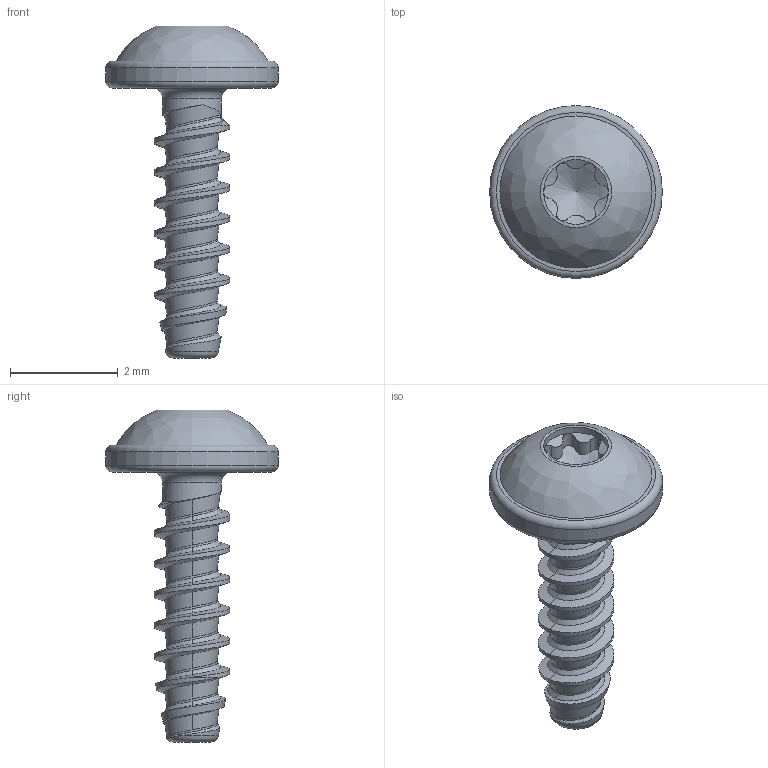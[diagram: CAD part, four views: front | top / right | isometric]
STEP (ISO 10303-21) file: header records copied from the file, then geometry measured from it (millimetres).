
FILE_DESCRIPTION(/* description */ (''),/* implementation_level */ '2;1');
FILE_NAME(/* name */ 'KN6038-STSplus-14x5-T3.step',/* time_stamp */ '2017-10-10T16:35:42+02:00',/* author */ (''),/* organization */ (''),/* preprocessor_version */ 'ST-DEVELOPER v16',/* originating_system */ 'SIEMENS PLM Software NX 10.0',/* authorisation */ '');
FILE_SCHEMA (('AUTOMOTIVE_DESIGN { 1 0 10303 214 3 1 1 1 }'));
Length unit declared in the file: millimetre
Products named in the file (1): KN6038-STSplus-14x5-T3
Bounding box: 3.2 x 3.2 x 6.15 mm (x, y, z)
Volume: 10.7 mm3; surface area: 47.4 mm2
Topology: 1 solids, 1 shells, 71 faces, 175 edges, 108 vertices
Faces by surface type: bspline 37, cylinder 17, cone 9, torus 4, plane 4
Full cylindrical faces by diameter (mm): 1.09 x1, 1.2 x1, 3.2 x1
Entity records: 4648 total; most frequent: CARTESIAN_POINT 3312, ORIENTED_EDGE 322, EDGE_CURVE 161, DIRECTION 154, VERTEX_POINT 104, B_SPLINE_CURVE_WITH_KNOTS 97, EDGE_LOOP 82, ADVANCED_FACE 71
